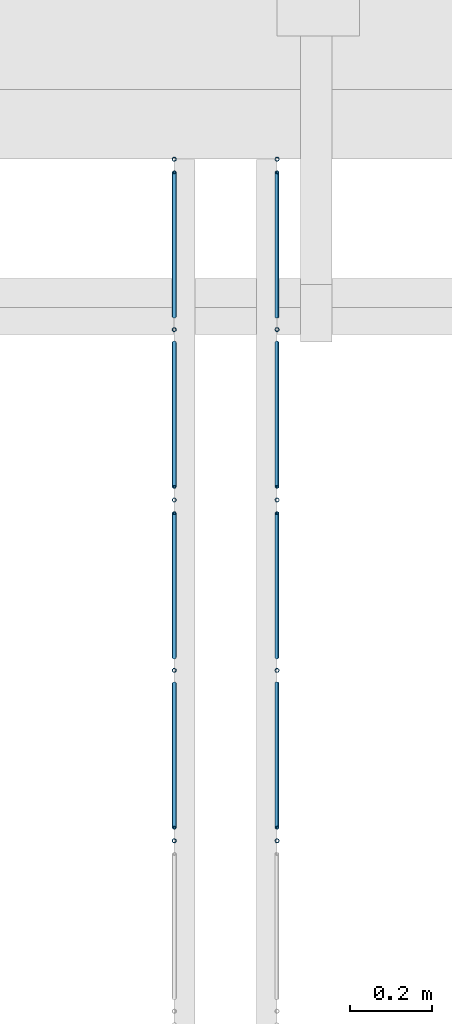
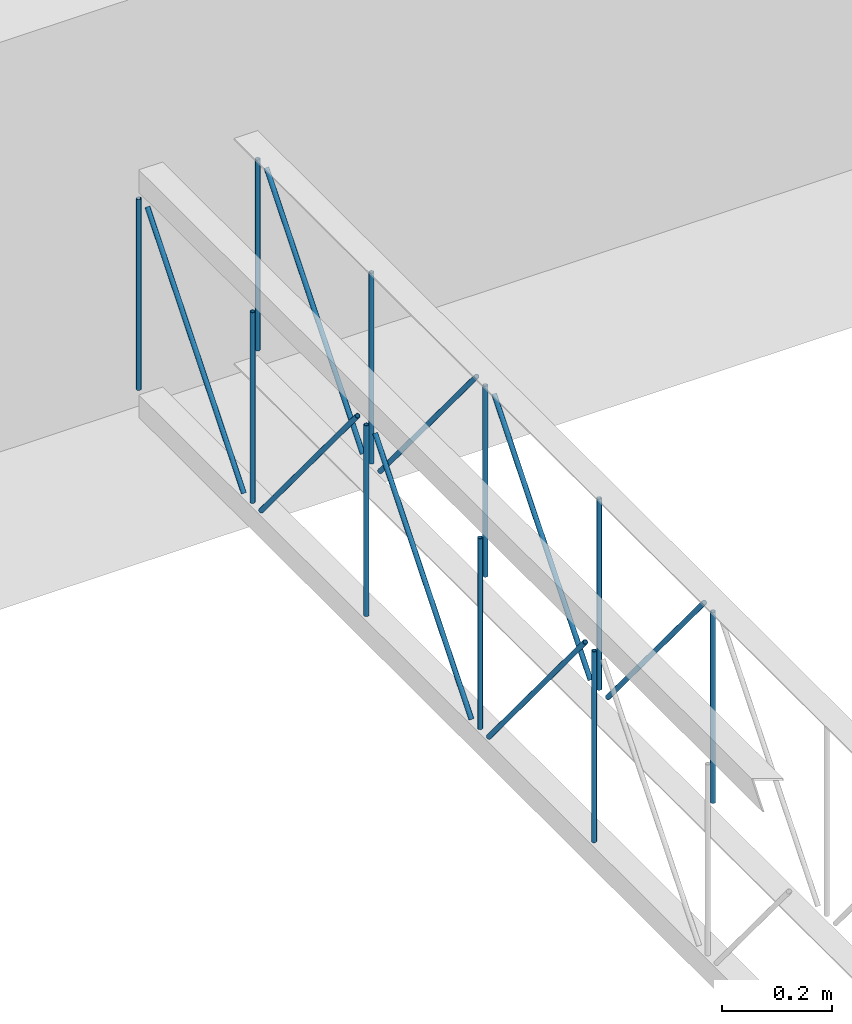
# One storey, part 64 of 153: 18 members, 2 elements without a shape of their own.
"""IFC4 building model written with IfcOpenShell, lengths in metres."""

import ifcopenshell
import ifcopenshell.guid

model = None  # the IFC model being written
_history = None  # IfcOwnerHistory: only IFC2X3 demands one
_inside = {}  # id of a spatial element -> (the spatial element, [elements in it])
_under = {}  # id of a project, library or spatial element -> (it, [spatial elements below it])
_declared = {}  # id of a project -> (the project, [libraries it declares])
_typed = {}  # id of a type object -> (the type object, [elements of that type])
_made_of = {}  # id of a material, layer set ... -> (it, [elements and type objects made of it])


def new_model(schema):
    """Start an empty IFC model of exactly this schema.

    Asked for "IFC4X3", IfcOpenShell would pick the latest addendum, in which some entities
    have other attributes; the version numbers below select the first issue.
    IFC2X3 requires an IfcOwnerHistory on every rooted entity: one is made here for all.
    """
    global model, _history
    if schema == "IFC4X3":
        model = ifcopenshell.file(schema_version=(4, 3, 0, 0))
    else:
        model = ifcopenshell.file(schema=schema)
    _inside.clear()
    _under.clear()
    _declared.clear()
    _typed.clear()
    _made_of.clear()
    _history = None
    if model.schema == "IFC2X3":
        org = make("IfcOrganization", Name="unknown")
        user = make(
            "IfcPersonAndOrganization",
            ThePerson=make("IfcPerson", FamilyName="unknown"),
            TheOrganization=org,
        )
        app = make(
            "IfcApplication",
            ApplicationDeveloper=org,
            Version="unknown",
            ApplicationFullName="unknown",
            ApplicationIdentifier="unknown",
        )
        _history = make(
            "IfcOwnerHistory",
            OwningUser=user,
            OwningApplication=app,
            ChangeAction="ADDED",
            CreationDate=0,
        )
    return model


def make(cls, **values):
    """One entity of the class cls with the attributes given. An attribute that is None is left unset."""
    return model.create_entity(
        cls, **{name: value for name, value in values.items() if value is not None}
    )


def entity(cls, *values):
    """Any entity or typed value of the class cls, its attributes in the order of the schema. None: left unset."""
    e = model.create_entity(cls)
    for i, value in enumerate(values):
        if value is not None:
            e[i] = value
    return e


def rooted(cls, **values):
    """An entity with a GlobalId (a new one), such as an element, a storey or a relation."""
    return make(cls, GlobalId=ifcopenshell.guid.new(), OwnerHistory=_history, **values)


def si_unit(unit_type, name, prefix=None):
    """IfcSIUnit, for example si_unit("LENGTHUNIT", "METRE", prefix="MILLI")."""
    return make("IfcSIUnit", UnitType=unit_type, Prefix=prefix, Name=name)


def converted_unit(unit_type, name, factor, base, dimensions=None, offset=None):
    """IfcConversionBasedUnit, such as the inch: factor (a typed value) times the base unit."""
    return make(
        "IfcConversionBasedUnit"
        if offset is None
        else "IfcConversionBasedUnitWithOffset",
        ConversionOffset=offset,
        Dimensions=None
        if dimensions is None
        else entity("IfcDimensionalExponents", *dimensions),
        UnitType=unit_type,
        Name=name,
        ConversionFactor=make(
            "IfcMeasureWithUnit", ValueComponent=factor, UnitComponent=base
        ),
    )


def derived_unit(unit_type, elements):
    """IfcDerivedUnit: a product of units, each with its exponent."""
    return make(
        "IfcDerivedUnit",
        Elements=[
            make("IfcDerivedUnitElement", Unit=unit, Exponent=power)
            for unit, power in elements
        ],
        UnitType=unit_type,
    )


def assignment(units):
    """IfcUnitAssignment: the units of a project."""
    return None if units is None else make("IfcUnitAssignment", Units=units)


def point(xyz):
    """IfcCartesianPoint."""
    return None if xyz is None else make("IfcCartesianPoint", Coordinates=xyz)


def direction(xyz):
    """IfcDirection."""
    return None if xyz is None else make("IfcDirection", DirectionRatios=xyz)


def frame(location, z_axis=None, x_axis=None):
    """IfcAxis2Placement3D, a coordinate frame: its origin and axes. An axis left out is left unset."""
    return make(
        "IfcAxis2Placement3D",
        Location=point(location),
        Axis=direction(z_axis),
        RefDirection=direction(x_axis),
    )


def origin():
    """The frame at (0, 0, 0) with its axes left unset."""
    return frame((0.0, 0.0, 0.0))


def place(relative_to, where):
    """IfcLocalPlacement: puts the frame where relative to a parent placement (None: the world)."""
    return make(
        "IfcLocalPlacement", PlacementRelTo=relative_to, RelativePlacement=where
    )


def context(
    kind, dimensions, precision=None, world=None, true_north=None, identifier=None
):
    """IfcGeometricRepresentationContext, for example the 3D "Model" context."""
    return make(
        "IfcGeometricRepresentationContext",
        ContextIdentifier=identifier,
        ContextType=kind,
        CoordinateSpaceDimension=dimensions,
        Precision=precision,
        WorldCoordinateSystem=world,
        TrueNorth=true_north,
    )


def subcontext(parent, identifier, kind, view, scale=None):
    """IfcGeometricRepresentationSubContext, for example "Body" below "Model"."""
    return make(
        "IfcGeometricRepresentationSubContext",
        ContextIdentifier=identifier,
        ContextType=kind,
        ParentContext=parent,
        TargetScale=scale,
        TargetView=view,
    )


def project(units=None, contexts=None):
    """IfcProject with its units and contexts."""
    return rooted(
        "IfcProject",
        Name="project",
        RepresentationContexts=contexts,
        UnitsInContext=assignment(units),
    )


def spatial(cls, under=None, at=None, **own):
    """A site, building, storey or space (cls), placed at a placement, below another one or the project."""
    s = rooted(cls, ObjectPlacement=at, **own)
    if under is not None:
        _under.setdefault(under.id(), (under, []))[1].append(s)
    return s


def point_list(points):
    """IfcCartesianPointList2D or 3D."""
    cls = (
        "IfcCartesianPointList2D" if len(points[0]) == 2 else "IfcCartesianPointList3D"
    )
    return make(cls, CoordList=points)


def arc(*indices):
    """IfcArcIndex: an arc through three numbered points of an indexed curve."""
    return model.create_entity("IfcArcIndex", indices)


def indexed_curve(points, segments=None, self_intersect=None):
    """IfcIndexedPolyCurve: lines and arcs through numbered points (the first is 1)."""
    return make(
        "IfcIndexedPolyCurve",
        Points=point_list(points),
        Segments=segments,
        SelfIntersect=self_intersect,
    )


def outline(outer, holes=None, kind="AREA"):
    """IfcArbitraryClosedProfileDef: a profile drawn as a closed curve; with holes, ...WithVoids."""
    if holes is None:
        return make("IfcArbitraryClosedProfileDef", ProfileType=kind, OuterCurve=outer)
    return make(
        "IfcArbitraryProfileDefWithVoids",
        ProfileType=kind,
        OuterCurve=outer,
        InnerCurves=holes,
    )


def extrude(swept, where, along, depth):
    """IfcExtrudedAreaSolid: the profile swept, set in the frame where, extruded along a direction by depth."""
    return make(
        "IfcExtrudedAreaSolid",
        SweptArea=swept,
        Position=where,
        ExtrudedDirection=direction(along),
        Depth=depth,
    )


def shape(context_of_items, identifier, shape_type, items):
    """IfcShapeRepresentation: the items that make up one representation, for example the "Body"."""
    return make(
        "IfcShapeRepresentation",
        ContextOfItems=context_of_items,
        RepresentationIdentifier=identifier,
        RepresentationType=shape_type,
        Items=items,
    )


def source(mapping_origin, context_of_items, identifier, shape_type, items):
    """IfcRepresentationMap: a shape defined once, which mapped items show again and again."""
    return make(
        "IfcRepresentationMap",
        MappingOrigin=mapping_origin,
        MappedRepresentation=shape(context_of_items, identifier, shape_type, items),
    )


def transform(
    local_origin,
    x_axis=None,
    y_axis=None,
    z_axis=None,
    scale=None,
    scale2=None,
    scale3=None,
    uniform=True,
):
    """IfcCartesianTransformationOperator3D, or its non-uniform kind. x_axis, y_axis, z_axis: its Axis1, 2, 3."""
    if uniform:
        return make(
            "IfcCartesianTransformationOperator3D",
            Axis1=direction(x_axis),
            Axis2=direction(y_axis),
            LocalOrigin=point(local_origin),
            Scale=scale,
            Axis3=direction(z_axis),
        )
    return make(
        "IfcCartesianTransformationOperator3DnonUniform",
        Axis1=direction(x_axis),
        Axis2=direction(y_axis),
        LocalOrigin=point(local_origin),
        Scale=scale,
        Axis3=direction(z_axis),
        Scale2=scale2,
        Scale3=scale3,
    )


def mapped(mapping_source, mapping_target):
    """IfcMappedItem: shows the shape of a source again, moved by a transform."""
    return make(
        "IfcMappedItem", MappingSource=mapping_source, MappingTarget=mapping_target
    )


def material(Name=None, Category=None):
    """IfcMaterial."""
    return make("IfcMaterial", Name=Name, Category=Category)


def made_of(thing, what):
    """Note that an element or type object is made of a material, layer set ...; save() writes the relation."""
    if what is not None:
        _made_of.setdefault(what.id(), (what, []))[1].append(thing)
    return thing


def type_object(cls, material=None, **own):
    """A type object (cls), such as IfcWallType, which elements share."""
    return made_of(rooted(cls, **own), material)


def type_shapes(of_type, sources):
    """Give a type object the sources (RepresentationMaps) that its elements show as mapped items."""
    of_type.RepresentationMaps = sources


def element(
    cls,
    number,
    at=None,
    inside=None,
    cuts=None,
    type_object=None,
    material=None,
    context=None,
    identifier="Body",
    shape_type=None,
    held_by="IfcProductDefinitionShape",
    body=None,
    shapes=None,
    **own,
):
    """One element of the class cls, such as IfcWall. Its Tag is "e" and its number.

    at: its placement. inside: the storey or other place that contains it. cuts: it is an
    opening in that element (IfcRelVoidsElement). A single representation is given by context,
    identifier, shape_type and body (its items); several are given by shapes. held_by: the class
    of the entity that holds the representations. save() writes the other relations.
    """
    e = rooted(cls, Tag="e%d" % number, ObjectPlacement=at, **own)
    if body is not None:
        shapes = [shape(context, identifier, shape_type, body)]
    if shapes is not None:
        e.Representation = make(held_by, Representations=shapes)
    if inside is not None:
        _inside.setdefault(inside.id(), (inside, []))[1].append(e)
    if cuts is not None:
        rooted(
            "IfcRelVoidsElement", RelatingBuildingElement=cuts, RelatedOpeningElement=e
        )
    if type_object is not None:
        _typed.setdefault(type_object.id(), (type_object, []))[1].append(e)
    return made_of(e, material)


def aggregate(whole, parts):
    """IfcRelAggregates: a whole, such as a stair, and the parts it consists of."""
    return rooted("IfcRelAggregates", RelatingObject=whole, RelatedObjects=parts)


def save(model, path):
    """Write the relations noted so far, then the file.

    IfcRelAggregates (storeys below a building ...), IfcRelContainedInSpatialStructure (elements
    in a storey), IfcRelDefinesByType, IfcRelAssociatesMaterial and IfcRelDeclares: one each for
    every whole, place, type object, material and project.
    """
    for whole, parts in _under.values():
        aggregate(whole, parts)
    for where, things in _inside.values():
        rooted(
            "IfcRelContainedInSpatialStructure",
            RelatedElements=things,
            RelatingStructure=where,
        )
    for kind, things in _typed.values():
        rooted("IfcRelDefinesByType", RelatedObjects=things, RelatingType=kind)
    for what, things in _made_of.values():
        rooted("IfcRelAssociatesMaterial", RelatedObjects=things, RelatingMaterial=what)
    for by, libraries in _declared.values():
        rooted("IfcRelDeclares", RelatingContext=by, RelatedDefinitions=libraries)
    model.write(path)


model = new_model("IFC4")

# Units and contexts
model_context = context("Model", 3, precision=1e-05, world=origin(), true_north=direction((6.123031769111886e-17, 1.0)))
body_context = subcontext(model_context, "Body", "Model", "MODEL_VIEW")
ifc_project = project(units=[si_unit("LENGTHUNIT", "METRE"), si_unit("AREAUNIT", "SQUARE_METRE"), si_unit("VOLUMEUNIT", "CUBIC_METRE"), converted_unit("PLANEANGLEUNIT", "DEGREE", entity("IfcRatioMeasure", 0.017453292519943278), si_unit("PLANEANGLEUNIT", "RADIAN"), dimensions=[0, 0, 0, 0, 0, 0, 0]), si_unit("MASSUNIT", "GRAM", prefix="KILO"), derived_unit("MASSDENSITYUNIT", [(si_unit("MASSUNIT", "GRAM", prefix="KILO"), 1), (si_unit("LENGTHUNIT", "METRE"), -3)]), derived_unit("MOMENTOFINERTIAUNIT", [(si_unit("LENGTHUNIT", "METRE"), 4)]), si_unit("TIMEUNIT", "SECOND"), si_unit("FREQUENCYUNIT", "HERTZ"), si_unit("THERMODYNAMICTEMPERATUREUNIT", "DEGREE_CELSIUS"), derived_unit("THERMALTRANSMITTANCEUNIT", [(si_unit("MASSUNIT", "GRAM", prefix="KILO"), 1), (si_unit("THERMODYNAMICTEMPERATUREUNIT", "KELVIN"), -1), (si_unit("TIMEUNIT", "SECOND"), -3)]), derived_unit("VOLUMETRICFLOWRATEUNIT", [(si_unit("LENGTHUNIT", "METRE"), 3), (si_unit("TIMEUNIT", "SECOND"), -1)]), derived_unit("MASSFLOWRATEUNIT", [(si_unit("MASSUNIT", "GRAM", prefix="KILO"), 1), (si_unit("TIMEUNIT", "SECOND"), -1)]), derived_unit("ROTATIONALFREQUENCYUNIT", [(si_unit("TIMEUNIT", "SECOND"), -1)]), si_unit("ELECTRICCURRENTUNIT", "AMPERE"), si_unit("ELECTRICVOLTAGEUNIT", "VOLT"), si_unit("POWERUNIT", "WATT"), si_unit("FORCEUNIT", "NEWTON", prefix="KILO"), si_unit("ILLUMINANCEUNIT", "LUX"), si_unit("LUMINOUSFLUXUNIT", "LUMEN"), si_unit("LUMINOUSINTENSITYUNIT", "CANDELA"), derived_unit("USERDEFINED", [(si_unit("MASSUNIT", "GRAM", prefix="KILO"), -1), (si_unit("LENGTHUNIT", "METRE"), -2), (si_unit("TIMEUNIT", "SECOND"), 3), (si_unit("LUMINOUSFLUXUNIT", "LUMEN"), 1)]), derived_unit("SOUNDPOWERUNIT", [(si_unit("MASSUNIT", "GRAM", prefix="KILO"), 1), (si_unit("LENGTHUNIT", "METRE"), 2), (si_unit("TIMEUNIT", "SECOND"), -3)]), derived_unit("SOUNDPRESSUREUNIT", [(si_unit("MASSUNIT", "GRAM", prefix="KILO"), 1), (si_unit("LENGTHUNIT", "METRE"), -1), (si_unit("TIMEUNIT", "SECOND"), -2)]), derived_unit("LINEARVELOCITYUNIT", [(si_unit("LENGTHUNIT", "METRE"), 1), (si_unit("TIMEUNIT", "SECOND"), -1)]), si_unit("PRESSUREUNIT", "PASCAL"), derived_unit("USERDEFINED", [(si_unit("LENGTHUNIT", "METRE"), -2), (si_unit("MASSUNIT", "GRAM", prefix="KILO"), 1), (si_unit("TIMEUNIT", "SECOND"), -2)]), derived_unit("LINEARFORCEUNIT", [(si_unit("MASSUNIT", "GRAM", prefix="KILO"), 1), (si_unit("LENGTHUNIT", "METRE"), 1), (si_unit("TIMEUNIT", "SECOND"), -2), (si_unit("LENGTHUNIT", "METRE"), -1)]), derived_unit("PLANARFORCEUNIT", [(si_unit("MASSUNIT", "GRAM", prefix="KILO"), 1), (si_unit("LENGTHUNIT", "METRE"), 1), (si_unit("TIMEUNIT", "SECOND"), -2), (si_unit("LENGTHUNIT", "METRE"), -2)])], contexts=[model_context])

# Site, building, storey
site_placement = place(None, origin())
site = spatial("IfcSite", under=ifc_project, at=site_placement, Name="Superficie", CompositionType="ELEMENT")
building_placement = place(site_placement, origin())
building = spatial("IfcBuilding", under=site, at=building_placement, CompositionType="ELEMENT")
storey_placement = place(building_placement, frame((0.0, 0.0, 3.5999999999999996)))
storey = spatial("IfcBuildingStorey", under=building, at=storey_placement, Name="Nivel 1", CompositionType="ELEMENT", Elevation=3.5999999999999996)

# Assembly, members
assembly_1_placement = place(storey_placement, origin())
assembly_1 = element("IfcElementAssembly", 1, at=assembly_1_placement, inside=storey, Name="Viga de celosia 13:Viga de celosia 13", ObjectType="Viga de celosia 13:Viga de celosia 13", AssemblyPlace="NOTDEFINED", PredefinedType="TRUSS")
ifc_material = material(Name="Metal - Calibre delgado", Category="Metal")
member_type_1 = type_object("IfcMemberType", Name="HSS-Tubo estructural redondo:HSS 0.01", PredefinedType="BRACE", material=ifc_material)
shared_shape_1 = source(origin(), body_context, "Body", "SweptSolid", [
    extrude(outline(indexed_curve([(-0.005000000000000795, 7.502054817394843e-18), (-9.800269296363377e-18, -0.005000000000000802), (0.005000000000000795, -7.502054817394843e-18), (8.07772287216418e-18, 0.005000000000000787)], segments=[arc(1, 2, 3), arc(3, 4, 1)], self_intersect=False), holes=[indexed_curve([(0.003999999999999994, 7.222511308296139e-17), (6.910645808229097e-17, -0.004000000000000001), (-0.003999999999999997, -1.8650054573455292e-17), (-2.9156497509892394e-17, 0.003999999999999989)], segments=[arc(1, 2, 3), arc(3, 4, 1)], self_intersect=False)]), frame((-0.21200000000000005, 0.0, 0.0), z_axis=(1.0, 0.0, 0.0), x_axis=(0.0, 1.0, 0.0)), (0.0, 0.0, 1.0), 0.4240000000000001),
])
type_shapes(member_type_1, [shared_shape_1])
member_1_placement = place(assembly_1_placement, frame((1.036799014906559, -4.99099109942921, 0.25), z_axis=(0.0, 1.0, 0.0), x_axis=(0.0, 0.0, 1.0)))
member_1 = element("IfcMember", 2, at=member_1_placement, type_object=member_type_1, material=ifc_material, Name="HSS-Tubo estructural redondo:HSS 0.01", ObjectType="HSS-Tubo estructural redondo:HSS 0.01", PredefinedType="BRACE", context=body_context, shape_type="MappedRepresentation", body=[
    mapped(shared_shape_1, transform((0.0, 0.0, 0.0), scale=1.0)),
])
member_2_placement = place(assembly_1_placement, frame((1.0367990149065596, -4.576645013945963, 0.25), z_axis=(0.0, 1.0, 0.0), x_axis=(0.0, 0.0, 1.0)))
member_2 = element("IfcMember", 3, at=member_2_placement, type_object=member_type_1, material=ifc_material, Name="HSS-Tubo estructural redondo:HSS 0.01", ObjectType="HSS-Tubo estructural redondo:HSS 0.01", PredefinedType="BRACE", context=body_context, shape_type="MappedRepresentation", body=[
    mapped(shared_shape_1, transform((0.0, 0.0, 0.0), scale=1.0)),
])
member_3_placement = place(assembly_1_placement, frame((1.0367990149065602, -4.162298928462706, 0.25), z_axis=(0.0, 1.0, 0.0), x_axis=(0.0, 0.0, 1.0)))
member_3 = element("IfcMember", 4, at=member_3_placement, type_object=member_type_1, material=ifc_material, Name="HSS-Tubo estructural redondo:HSS 0.01", ObjectType="HSS-Tubo estructural redondo:HSS 0.01", PredefinedType="BRACE", context=body_context, shape_type="MappedRepresentation", body=[
    mapped(shared_shape_1, transform((0.0, 0.0, 0.0), scale=1.0)),
])
member_4_placement = place(assembly_1_placement, frame((1.0367990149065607, -3.7479528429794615, 0.25), z_axis=(0.0, 1.0, 0.0), x_axis=(0.0, 0.0, 1.0)))
member_4 = element("IfcMember", 5, at=member_4_placement, type_object=member_type_1, material=ifc_material, Name="HSS-Tubo estructural redondo:HSS 0.01", ObjectType="HSS-Tubo estructural redondo:HSS 0.01", PredefinedType="BRACE", context=body_context, shape_type="MappedRepresentation", body=[
    mapped(shared_shape_1, transform((0.0, 0.0, 0.0), scale=1.0)),
])
member_5_placement = place(assembly_1_placement, frame((1.0367990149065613, -3.333606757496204, 0.25), z_axis=(0.0, 1.0, 0.0), x_axis=(0.0, 0.0, 1.0)))
member_5 = element("IfcMember", 6, at=member_5_placement, type_object=member_type_1, material=ifc_material, Name="HSS-Tubo estructural redondo:HSS 0.01", ObjectType="HSS-Tubo estructural redondo:HSS 0.01", PredefinedType="BRACE", context=body_context, shape_type="MappedRepresentation", body=[
    mapped(shared_shape_1, transform((0.0, 0.0, 0.0), scale=1.0)),
])
member_type_2 = type_object("IfcMemberType", Name="HSS-Tubo estructural redondo:HSS 0.01", PredefinedType="BRACE", material=ifc_material)
shared_shape_2 = source(origin(), body_context, "Body", "SweptSolid", [
    extrude(outline(indexed_curve([(-0.005000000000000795, 7.502054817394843e-18), (-9.800269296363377e-18, -0.005000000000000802), (0.005000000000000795, -7.502054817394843e-18), (8.07772287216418e-18, 0.005000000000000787)], segments=[arc(1, 2, 3), arc(3, 4, 1)], self_intersect=False), holes=[indexed_curve([(0.003999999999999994, 7.222511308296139e-17), (6.910645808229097e-17, -0.004000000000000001), (-0.003999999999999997, -1.8650054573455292e-17), (-2.9156497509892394e-17, 0.003999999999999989)], segments=[arc(1, 2, 3), arc(3, 4, 1)], self_intersect=False)]), frame((-0.275, 0.0, 0.0), z_axis=(1.0, 0.0, 0.0), x_axis=(0.0, 1.0, 0.0)), (0.0, 0.0, 1.0), 0.55),
])
type_shapes(member_type_2, [shared_shape_2])
member_6_placement = place(assembly_1_placement, frame((1.0367990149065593, -4.783818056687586, 0.25000000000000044), z_axis=(0.0, -0.7699758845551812, -0.6380729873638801), x_axis=(0.0, 0.6380729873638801, -0.7699758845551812)))
member_6 = element("IfcMember", 7, at=member_6_placement, type_object=member_type_2, material=ifc_material, Name="HSS-Tubo estructural redondo:HSS 0.01", ObjectType="HSS-Tubo estructural redondo:HSS 0.01", PredefinedType="BRACE", context=body_context, shape_type="MappedRepresentation", body=[
    mapped(shared_shape_2, transform((0.0, 0.0, 0.0), scale=1.0)),
])
member_7_placement = place(assembly_1_placement, frame((1.0367990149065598, -4.369471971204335, 0.2500000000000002), z_axis=(0.0, 0.7699758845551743, -0.6380729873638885), x_axis=(0.0, 0.6380729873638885, 0.7699758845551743)))
member_7 = element("IfcMember", 8, at=member_7_placement, type_object=member_type_2, material=ifc_material, Name="HSS-Tubo estructural redondo:HSS 0.01", ObjectType="HSS-Tubo estructural redondo:HSS 0.01", PredefinedType="BRACE", context=body_context, shape_type="MappedRepresentation", body=[
    mapped(shared_shape_2, transform((0.0, 0.0, 0.0), scale=1.0)),
])
member_8_placement = place(assembly_1_placement, frame((1.0367990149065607, -3.955125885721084, 0.25), z_axis=(0.0, -0.7699758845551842, -0.6380729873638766), x_axis=(0.0, 0.6380729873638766, -0.7699758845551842)))
member_8 = element("IfcMember", 9, at=member_8_placement, type_object=member_type_2, material=ifc_material, Name="HSS-Tubo estructural redondo:HSS 0.01", ObjectType="HSS-Tubo estructural redondo:HSS 0.01", PredefinedType="BRACE", context=body_context, shape_type="MappedRepresentation", body=[
    mapped(shared_shape_2, transform((0.0, 0.0, 0.0), scale=1.0)),
])
member_9_placement = place(assembly_1_placement, frame((1.0367990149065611, -3.5407798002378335, 0.2500000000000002), z_axis=(0.0, 0.7699758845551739, -0.638072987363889), x_axis=(0.0, 0.638072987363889, 0.7699758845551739)))
member_9 = element("IfcMember", 10, at=member_9_placement, type_object=member_type_2, material=ifc_material, Name="HSS-Tubo estructural redondo:HSS 0.01", ObjectType="HSS-Tubo estructural redondo:HSS 0.01", PredefinedType="BRACE", context=body_context, shape_type="MappedRepresentation", body=[
    mapped(shared_shape_2, transform((0.0, 0.0, 0.0), scale=1.0)),
])
aggregate(assembly_1, [member_1, member_2, member_3, member_4, member_5, member_6, member_7, member_8, member_9])

assembly_2_placement = place(storey_placement, origin())
assembly_2 = element("IfcElementAssembly", 11, at=assembly_2_placement, inside=storey, Name="Viga de celosia 13:Viga de celosia 13", ObjectType="Viga de celosia 13:Viga de celosia 13", AssemblyPlace="NOTDEFINED", PredefinedType="TRUSS")
member_type_3 = type_object("IfcMemberType", Name="HSS-Tubo estructural redondo:HSS 0.01", PredefinedType="BRACE", material=ifc_material)
shared_shape_3 = source(origin(), body_context, "Body", "SweptSolid", [
    extrude(outline(indexed_curve([(-0.005000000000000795, 2.0824731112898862e-17), (-2.3122945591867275e-17, -0.005000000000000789), (0.005000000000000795, -2.08247311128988e-17), (2.14003991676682e-17, 0.005000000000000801)], segments=[arc(1, 2, 3), arc(3, 4, 1)], self_intersect=False), holes=[indexed_curve([(0.003999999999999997, -1.3094283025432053e-17), (-1.531427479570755e-18, -0.003999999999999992), (-0.004, 4.0098531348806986e-17), (4.1481388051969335e-17, 0.0039999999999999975)], segments=[arc(1, 2, 3), arc(3, 4, 1)], self_intersect=False)]), frame((-0.21200000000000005, 0.0, 0.0), z_axis=(1.0, 0.0, 0.0), x_axis=(0.0, -1.0, 0.0)), (0.0, 0.0, 1.0), 0.4240000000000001),
])
type_shapes(member_type_3, [shared_shape_3])
member_10_placement = place(assembly_2_placement, frame((1.286799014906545, -4.99099109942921, 0.25), z_axis=(0.0, 1.0, 0.0), x_axis=(0.0, 0.0, 1.0)))
member_10 = element("IfcMember", 12, at=member_10_placement, type_object=member_type_3, material=ifc_material, Name="HSS-Tubo estructural redondo:HSS 0.01", ObjectType="HSS-Tubo estructural redondo:HSS 0.01", PredefinedType="BRACE", context=body_context, shape_type="MappedRepresentation", body=[
    mapped(shared_shape_3, transform((0.0, 0.0, 0.0), scale=1.0)),
])
member_11_placement = place(assembly_2_placement, frame((1.2867990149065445, -4.576645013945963, 0.25), z_axis=(0.0, 1.0, 0.0), x_axis=(0.0, 0.0, 1.0)))
member_11 = element("IfcMember", 13, at=member_11_placement, type_object=member_type_3, material=ifc_material, Name="HSS-Tubo estructural redondo:HSS 0.01", ObjectType="HSS-Tubo estructural redondo:HSS 0.01", PredefinedType="BRACE", context=body_context, shape_type="MappedRepresentation", body=[
    mapped(shared_shape_3, transform((0.0, 0.0, 0.0), scale=1.0)),
])
member_12_placement = place(assembly_2_placement, frame((1.2867990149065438, -4.162298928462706, 0.25), z_axis=(0.0, 1.0, 0.0), x_axis=(0.0, 0.0, 1.0)))
member_12 = element("IfcMember", 14, at=member_12_placement, type_object=member_type_3, material=ifc_material, Name="HSS-Tubo estructural redondo:HSS 0.01", ObjectType="HSS-Tubo estructural redondo:HSS 0.01", PredefinedType="BRACE", context=body_context, shape_type="MappedRepresentation", body=[
    mapped(shared_shape_3, transform((0.0, 0.0, 0.0), scale=1.0)),
])
member_13_placement = place(assembly_2_placement, frame((1.2867990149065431, -3.7479528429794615, 0.25), z_axis=(0.0, 1.0, 0.0), x_axis=(0.0, 0.0, 1.0)))
member_13 = element("IfcMember", 15, at=member_13_placement, type_object=member_type_3, material=ifc_material, Name="HSS-Tubo estructural redondo:HSS 0.01", ObjectType="HSS-Tubo estructural redondo:HSS 0.01", PredefinedType="BRACE", context=body_context, shape_type="MappedRepresentation", body=[
    mapped(shared_shape_3, transform((0.0, 0.0, 0.0), scale=1.0)),
])
member_14_placement = place(assembly_2_placement, frame((1.2867990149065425, -3.333606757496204, 0.25), z_axis=(0.0, 1.0, 0.0), x_axis=(0.0, 0.0, 1.0)))
member_14 = element("IfcMember", 16, at=member_14_placement, type_object=member_type_3, material=ifc_material, Name="HSS-Tubo estructural redondo:HSS 0.01", ObjectType="HSS-Tubo estructural redondo:HSS 0.01", PredefinedType="BRACE", context=body_context, shape_type="MappedRepresentation", body=[
    mapped(shared_shape_3, transform((0.0, 0.0, 0.0), scale=1.0)),
])
member_type_4 = type_object("IfcMemberType", Name="HSS-Tubo estructural redondo:HSS 0.01", PredefinedType="BRACE", material=ifc_material)
shared_shape_4 = source(origin(), body_context, "Body", "SweptSolid", [
    extrude(outline(indexed_curve([(-0.005000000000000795, 2.0824731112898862e-17), (-2.3122945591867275e-17, -0.005000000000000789), (0.005000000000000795, -2.08247311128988e-17), (2.14003991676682e-17, 0.005000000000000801)], segments=[arc(1, 2, 3), arc(3, 4, 1)], self_intersect=False), holes=[indexed_curve([(0.003999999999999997, -1.3094283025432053e-17), (-1.531427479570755e-18, -0.003999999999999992), (-0.004, 4.0098531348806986e-17), (4.1481388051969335e-17, 0.0039999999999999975)], segments=[arc(1, 2, 3), arc(3, 4, 1)], self_intersect=False)]), frame((-0.275, 0.0, 0.0), z_axis=(1.0, 0.0, 0.0), x_axis=(0.0, -1.0, 0.0)), (0.0, 0.0, 1.0), 0.55),
])
type_shapes(member_type_4, [shared_shape_4])
member_15_placement = place(assembly_2_placement, frame((1.2867990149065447, -4.783818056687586, 0.25000000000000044), z_axis=(0.0, -0.7699758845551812, -0.6380729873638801), x_axis=(0.0, 0.6380729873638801, -0.7699758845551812)))
member_15 = element("IfcMember", 17, at=member_15_placement, type_object=member_type_4, material=ifc_material, Name="HSS-Tubo estructural redondo:HSS 0.01", ObjectType="HSS-Tubo estructural redondo:HSS 0.01", PredefinedType="BRACE", context=body_context, shape_type="MappedRepresentation", body=[
    mapped(shared_shape_4, transform((0.0, 0.0, 0.0), scale=1.0)),
])
member_16_placement = place(assembly_2_placement, frame((1.2867990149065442, -4.369471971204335, 0.2500000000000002), z_axis=(0.0, 0.7699758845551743, -0.6380729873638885), x_axis=(0.0, 0.6380729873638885, 0.7699758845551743)))
member_16 = element("IfcMember", 18, at=member_16_placement, type_object=member_type_4, material=ifc_material, Name="HSS-Tubo estructural redondo:HSS 0.01", ObjectType="HSS-Tubo estructural redondo:HSS 0.01", PredefinedType="BRACE", context=body_context, shape_type="MappedRepresentation", body=[
    mapped(shared_shape_4, transform((0.0, 0.0, 0.0), scale=1.0)),
])
member_17_placement = place(assembly_2_placement, frame((1.2867990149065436, -3.955125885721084, 0.25), z_axis=(0.0, -0.7699758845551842, -0.6380729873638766), x_axis=(0.0, 0.6380729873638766, -0.7699758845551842)))
member_17 = element("IfcMember", 19, at=member_17_placement, type_object=member_type_4, material=ifc_material, Name="HSS-Tubo estructural redondo:HSS 0.01", ObjectType="HSS-Tubo estructural redondo:HSS 0.01", PredefinedType="BRACE", context=body_context, shape_type="MappedRepresentation", body=[
    mapped(shared_shape_4, transform((0.0, 0.0, 0.0), scale=1.0)),
])
member_18_placement = place(assembly_2_placement, frame((1.2867990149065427, -3.5407798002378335, 0.2500000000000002), z_axis=(0.0, 0.7699758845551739, -0.638072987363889), x_axis=(0.0, 0.638072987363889, 0.7699758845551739)))
member_18 = element("IfcMember", 20, at=member_18_placement, type_object=member_type_4, material=ifc_material, Name="HSS-Tubo estructural redondo:HSS 0.01", ObjectType="HSS-Tubo estructural redondo:HSS 0.01", PredefinedType="BRACE", context=body_context, shape_type="MappedRepresentation", body=[
    mapped(shared_shape_4, transform((0.0, 0.0, 0.0), scale=1.0)),
])
aggregate(assembly_2, [member_10, member_11, member_12, member_13, member_14, member_15, member_16, member_17, member_18])

save(model, "model.ifc")
